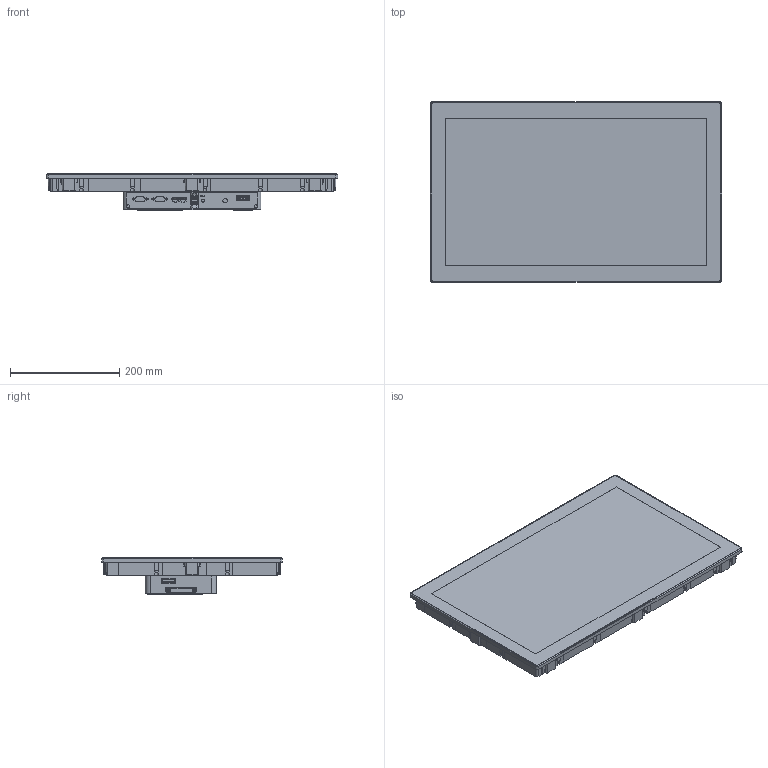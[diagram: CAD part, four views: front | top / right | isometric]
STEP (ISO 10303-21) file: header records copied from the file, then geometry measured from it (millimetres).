
FILE_DESCRIPTION (( 'STEP AP203' ), '1' );
FILE_NAME ('PFXGP6940WCDI_3D_simpl_2.STEP', '2024-05-29T09:33:04', ( '' ), ( '' ), 'SwSTEP 2.0', 'SolidWorks 2017', '' );
FILE_SCHEMA (( 'CONFIG_CONTROL_DESIGN' ));
Products named in the file (1): PFXGP6940WCDI_3D_simpl_2
Bounding box: 532.6 x 330.6 x 66.28 mm (x, y, z)
Volume: 6357659 mm3; surface area: 485694.6 mm2
Topology: 11 solids, 21 shells, 2871 faces, 8089 edges, 5330 vertices
Faces by surface type: plane 2134, cylinder 531, bspline 147, cone 59
Full cylindrical faces by diameter (mm): 2.5 x2, 2.8 x2, 2.845 x4, 3.5 x8, 4 x8, 4.1 x16, 5.6 x31, 8 x9, 8.454 x6
Entity records: 104833 total; most frequent: CARTESIAN_POINT 32803, ORIENTED_EDGE 15822, DIRECTION 13370, EDGE_CURVE 7911, LINE 6208, VECTOR 6208, VERTEX_POINT 5281, AXIS2_PLACEMENT_3D 3581
